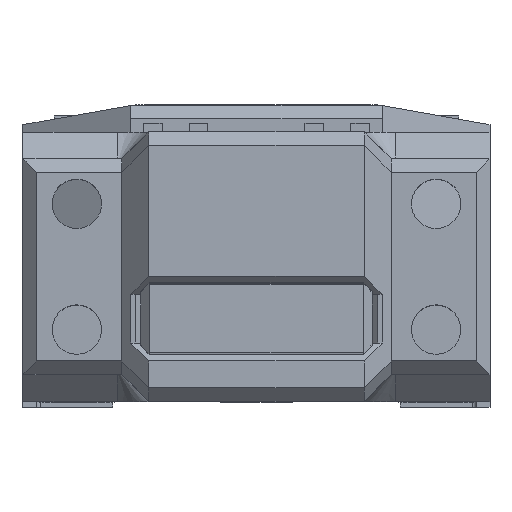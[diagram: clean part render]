
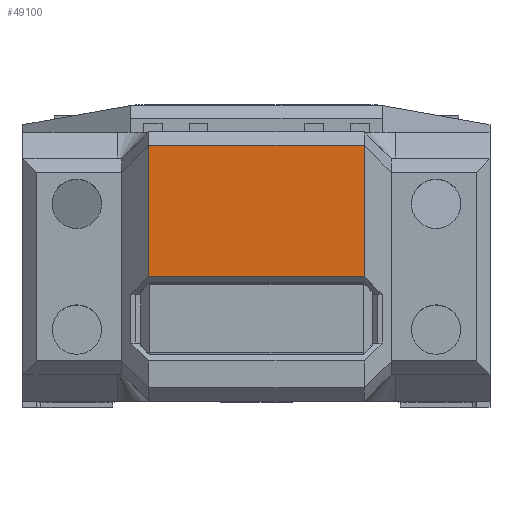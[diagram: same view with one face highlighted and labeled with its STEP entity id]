
A CAD part, top view. The second image highlights one B-rep face of the part: STEP entity #49100.
In plain terms, the highlighted planar face has unit normal (0, 0, 1).
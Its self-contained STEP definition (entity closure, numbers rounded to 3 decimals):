
#2951=DIRECTION('',(-1.,0.,0.));
#2952=VECTOR('',#2951,24.);
#2953=CARTESIAN_POINT('',(12.,13.5,7.));
#2954=LINE('',#2953,#2952);
#18922=DIRECTION('',(0.,-1.,0.));
#18923=VECTOR('',#18922,14.6);
#18924=CARTESIAN_POINT('',(12.,13.5,7.));
#18925=LINE('',#18924,#18923);
#18926=DIRECTION('',(-1.,0.,0.));
#18927=VECTOR('',#18926,24.);
#18928=CARTESIAN_POINT('',(12.,-1.1,7.));
#18929=LINE('',#18928,#18927);
#18930=DIRECTION('',(0.,-1.,0.));
#18931=VECTOR('',#18930,14.6);
#18932=CARTESIAN_POINT('',(-12.,13.5,7.));
#18933=LINE('',#18932,#18931);
#22797=CARTESIAN_POINT('',(12.,-1.1,7.));
#22798=CARTESIAN_POINT('',(-12.,-1.1,7.));
#22799=VERTEX_POINT('',#22797);
#22800=VERTEX_POINT('',#22798);
#23162=CARTESIAN_POINT('',(12.,13.5,7.));
#23164=VERTEX_POINT('',#23162);
#23169=CARTESIAN_POINT('',(-12.,13.5,7.));
#23170=VERTEX_POINT('',#23169);
#49089=CARTESIAN_POINT('',(0.,0.,7.));
#49090=DIRECTION('',(0.,0.,1.));
#49091=DIRECTION('',(-1.,0.,0.));
#49092=AXIS2_PLACEMENT_3D('',#49089,#49090,#49091);
#49093=PLANE('',#49092);
#49094=ORIENTED_EDGE('',*,*,#27584,.F.);
#49095=ORIENTED_EDGE('',*,*,#25134,.T.);
#49096=ORIENTED_EDGE('',*,*,#25019,.T.);
#49097=ORIENTED_EDGE('',*,*,#25069,.F.);
#49098=EDGE_LOOP('',(#49094,#49095,#49096,#49097));
#49099=FACE_OUTER_BOUND('',#49098,.F.);
#25019=EDGE_CURVE('',#22799,#22800,#18929,.T.);
#25069=EDGE_CURVE('',#23170,#22800,#18933,.T.);
#25134=EDGE_CURVE('',#23164,#22799,#18925,.T.);
#27584=EDGE_CURVE('',#23164,#23170,#2954,.T.);
#49100=ADVANCED_FACE('',(#49099),#49093,.T.);
